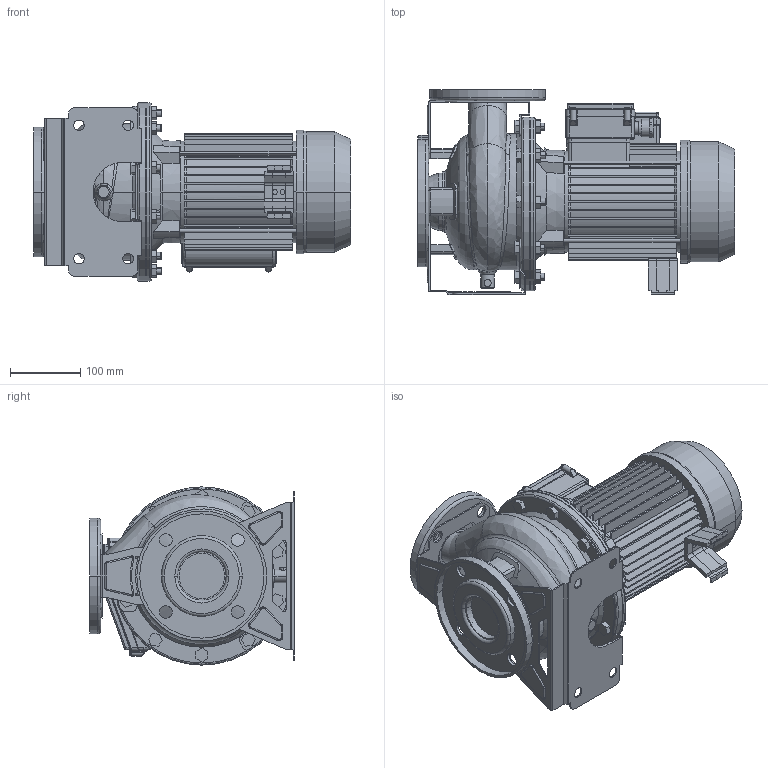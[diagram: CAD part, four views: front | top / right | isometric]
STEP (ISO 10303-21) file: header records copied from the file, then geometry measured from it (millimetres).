
FILE_DESCRIPTION((''),'2;1');
FILE_NAME('3M_50-125_2_2_M_ASM','2016-09-16T',('rosa'),('"Ebara Pumps Europe +39.444.706811"'),'PRO/ENGINEER BY PARAMETRIC TECHNOLOGY CORPORATION, 2012130','PRO/ENGINEER BY PARAMETRIC TECHNOLOGY CORPORATION, 2012130','');
FILE_SCHEMA(('AUTOMOTIVE_DESIGN { 1 0 10303 214 1 1 1 1 }'));
Length unit declared in the file: millimetre
Products named in the file (12): CORPO_50-125_AF0; ASP_50-125; FLANGIA_DIN_65; MAND_50-125; FLANGIA_DIN_50; BASE_3M_50-125; CORPO_SALDATO_50-125_ASM; SUPPORTO_3M_190_90; MEC_90X120_M; SOSTEGNO_72004; COPRIMORSETTIERA_MEC80_90_M; 3M_50-125_2_2_M_ASM
Assembly tree (12 placements, depth 3):
  3M_50-125_2_2_M_ASM
    CORPO_SALDATO_50-125_ASM
      CORPO_50-125_AF0
      ASP_50-125
      FLANGIA_DIN_65
      MAND_50-125
      FLANGIA_DIN_50
      BASE_3M_50-125
    SUPPORTO_3M_190_90
    MEC_90X120_M
    SOSTEGNO_72004  x2
    COPRIMORSETTIERA_MEC80_90_M
Bounding box: 452 x 292 x 254 mm (x, y, z)
Volume: 8890195.9 mm3; surface area: 1145928 mm2
Topology: 14 solids, 14 shells, 1358 faces, 3419 edges, 2149 vertices
Faces by surface type: plane 640, cylinder 448, cone 100, torus 85, bspline 77, sphere 8
Entity records: 58004 total; most frequent: CARTESIAN_POINT 13673, DIRECTION 6734, ORIENTED_EDGE 6670, PRESENTATION_STYLE_ASSIGNMENT 3348, STYLED_ITEM 3348, CURVE_STYLE 3335, EDGE_CURVE 3335, AXIS2_PLACEMENT_3D 2493
